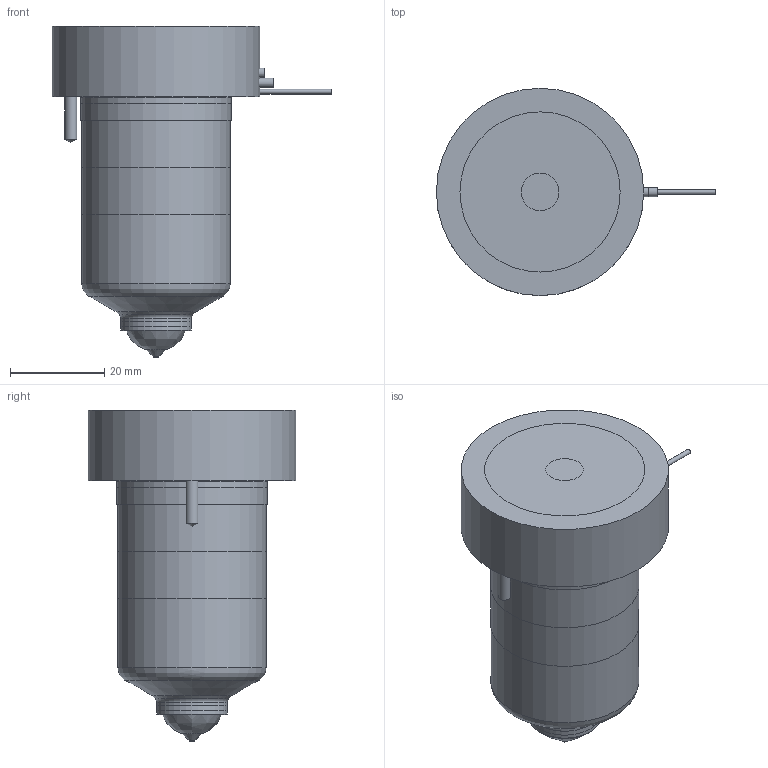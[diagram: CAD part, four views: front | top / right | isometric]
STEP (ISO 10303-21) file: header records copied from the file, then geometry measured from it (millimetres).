
FILE_DESCRIPTION(/* description */ (''),/* implementation_level */ '2;1');
FILE_NAME(/* name */ 'MXTT-MXIT19055_250C_b',/* time_stamp */ '2007-01-18T09:52:12+13:00',/* author */ (''),/* organization */ (''),/* preprocessor_version */ 'ST-DEVELOPER v9',/* originating_system */ 'UGS - NX 4.0',/* authorisation */ '');
FILE_SCHEMA (('CONFIG_CONTROL_DESIGN'));
Length unit declared in the file: millimetre
Products named in the file (1): MXTT-MXIT19055_250C_b
Bounding box: 59.25 x 44 x 70.38 mm (x, y, z)
Volume: 105810.7 mm3; surface area: 21314.8 mm2
Topology: 7 solids, 7 shells, 83 faces, 158 edges, 101 vertices
Faces by surface type: plane 35, cylinder 27, cone 11, torus 8, bspline 2
Full cylindrical faces by diameter (mm): 1 x3, 1.2 x1, 2 x2, 2.5 x2, 8 x1, 14.61 x1, 15.01 x2, 18.3 x1, 25.4 x1, 31.5 x2, 32 x2, 44 x1
Entity records: 2009 total; most frequent: CARTESIAN_POINT 418, DIRECTION 340, ORIENTED_EDGE 222, AXIS2_PLACEMENT_3D 157, EDGE_LOOP 132, EDGE_CURVE 111, VERTEX_POINT 92, ADVANCED_FACE 83
